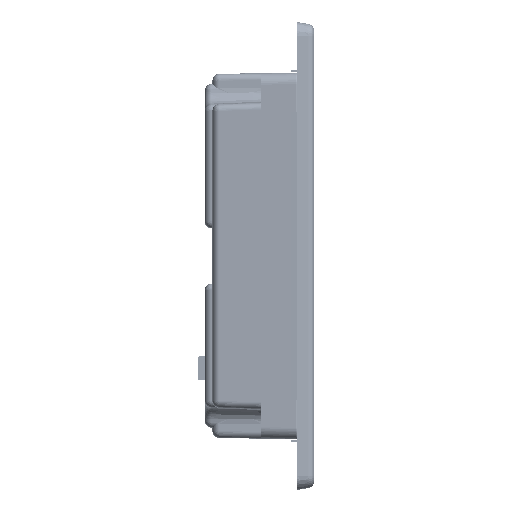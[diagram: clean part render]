
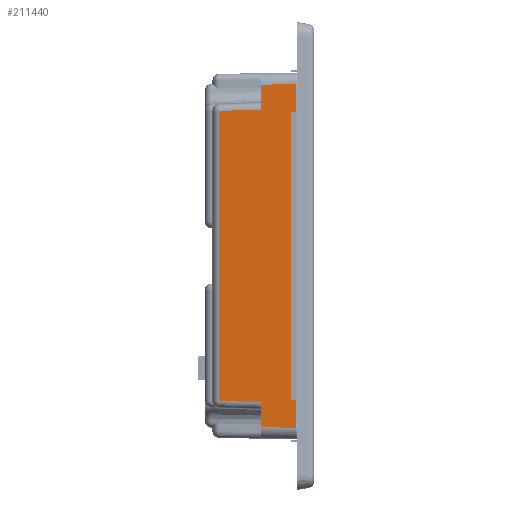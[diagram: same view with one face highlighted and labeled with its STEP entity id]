
A CAD part, left-side view. The second image highlights one B-rep face of the part: STEP entity #211440.
In plain terms, the highlighted planar face has unit normal (-1, 0.018, 0) as drawn and (1, 0, 0.017) by its records, which use the part's own axes.
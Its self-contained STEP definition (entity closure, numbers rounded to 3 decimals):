
#37014=ORIENTED_EDGE('',*,*,#70653,.F.);
#37015=ORIENTED_EDGE('',*,*,#70520,.F.);
#37016=ORIENTED_EDGE('',*,*,#70654,.T.);
#37017=ORIENTED_EDGE('',*,*,#70576,.F.);
#37018=ORIENTED_EDGE('',*,*,#70655,.T.);
#37019=ORIENTED_EDGE('',*,*,#70645,.F.);
#37020=ORIENTED_EDGE('',*,*,#70656,.T.);
#37021=ORIENTED_EDGE('',*,*,#70657,.T.);
#70520=EDGE_CURVE('',#89851,#89852,#107780,.T.);
#70576=EDGE_CURVE('',#89885,#89886,#107810,.T.);
#70645=EDGE_CURVE('',#89926,#89927,#107853,.T.);
#70653=EDGE_CURVE('',#89852,#89932,#107856,.T.);
#70654=EDGE_CURVE('',#89851,#89886,#107857,.T.);
#70655=EDGE_CURVE('',#89885,#89927,#107858,.T.);
#70656=EDGE_CURVE('',#89926,#89933,#107859,.T.);
#70657=EDGE_CURVE('',#89933,#89932,#107860,.T.);
#89851=VERTEX_POINT('',#356002);
#89852=VERTEX_POINT('',#356004);
#89885=VERTEX_POINT('',#356315);
#89886=VERTEX_POINT('',#356319);
#89926=VERTEX_POINT('',#356519);
#89927=VERTEX_POINT('',#356521);
#89932=VERTEX_POINT('',#356541);
#89933=VERTEX_POINT('',#356547);
#107780=LINE('',#356003,#126860);
#107810=LINE('',#356318,#126890);
#107853=LINE('',#356520,#126933);
#107856=LINE('',#356542,#126936);
#107857=LINE('',#356544,#126937);
#107858=LINE('',#356545,#126938);
#107859=LINE('',#356546,#126939);
#107860=LINE('',#356548,#126940);
#126860=VECTOR('',#250908,1000.);
#126890=VECTOR('',#250984,1000.);
#126933=VECTOR('',#251113,1000.);
#126936=VECTOR('',#251126,1000.);
#126937=VECTOR('',#251129,1000.);
#126938=VECTOR('',#251130,1000.);
#126939=VECTOR('',#251131,1000.);
#126940=VECTOR('',#251132,1000.);
#141126=EDGE_LOOP('',(#37014,#37015,#37016,#37017,#37018,#37019,#37020,
#37021));
#152240=FACE_BOUND('',#141126,.T.);
#161168=PLANE('',#221871);
#211440=ADVANCED_FACE('',(#152240),#161168,.T.);
#221871=AXIS2_PLACEMENT_3D('',#356543,#251127,#251128);
#250908=DIRECTION('',(0.,1.,0.));
#250984=DIRECTION('',(0.,-1.,0.));
#251113=DIRECTION('',(0.,1.,0.));
#251126=DIRECTION('',(-0.017,0.035,0.999));
#251127=DIRECTION('',(1.,0.,0.017));
#251128=DIRECTION('',(0.,-1.,0.));
#251129=DIRECTION('',(0.017,-0.017,-1.));
#251130=DIRECTION('',(-0.017,-0.017,1.));
#251131=DIRECTION('',(-0.017,-0.035,0.999));
#251132=DIRECTION('',(0.,-1.,0.));
#356002=CARTESIAN_POINT('',(103.284,-81.352,-9.588));
#356003=CARTESIAN_POINT('',(103.284,-85.317,-9.588));
#356004=CARTESIAN_POINT('',(103.284,-72.345,-9.588));
#356315=CARTESIAN_POINT('',(103.502,43.27,-22.074));
#356318=CARTESIAN_POINT('',(103.502,47.017,-22.074));
#356319=CARTESIAN_POINT('',(103.502,-81.57,-22.074));
#356519=CARTESIAN_POINT('',(103.284,34.045,-9.588));
#356520=CARTESIAN_POINT('',(103.284,-85.317,-9.588));
#356521=CARTESIAN_POINT('',(103.284,43.052,-9.588));
#356541=CARTESIAN_POINT('',(103.016,-71.809,5.748));
#356542=CARTESIAN_POINT('',(102.976,-71.729,8.046));
#356543=CARTESIAN_POINT('',(103.052,47.017,3.705));
#356544=CARTESIAN_POINT('',(103.284,-81.352,-9.588));
#356545=CARTESIAN_POINT('',(103.502,43.27,-22.074));
#356546=CARTESIAN_POINT('',(103.284,34.045,-9.588));
#356547=CARTESIAN_POINT('',(103.016,33.51,5.748));
#356548=CARTESIAN_POINT('',(103.016,47.017,5.748));
